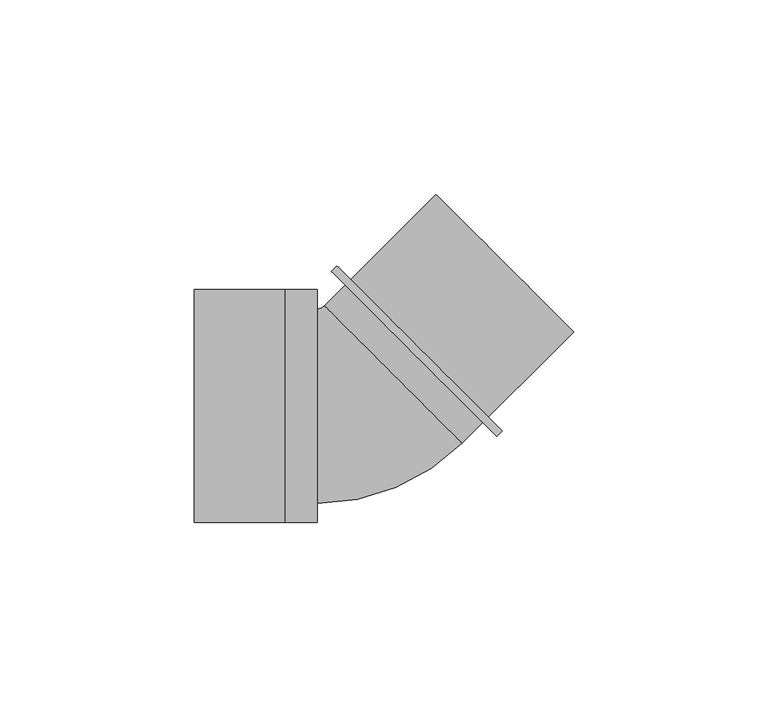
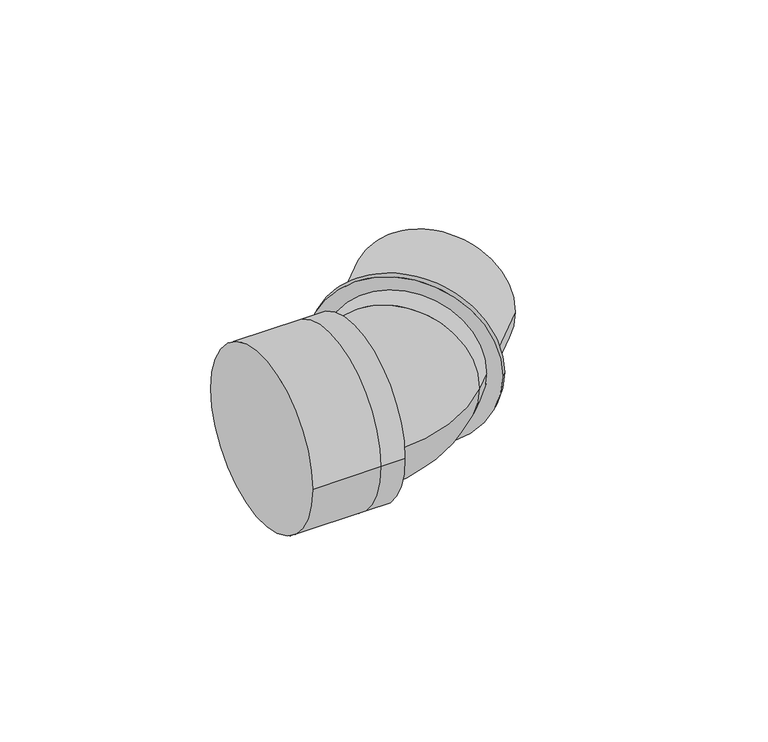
"""IFC4 building model written with IfcOpenShell, lengths in millimetres: pipe fitting geometry, 01051428 : Joelho a 45º F/M/F."""

from ifc_helpers import new_model, si_unit, point, frame, origin, origin_2d, place, context, project, spatial, circle_curve, ellipse_curve, trimmed, segment, composite_curve, outline, extrude, source, transform, mapped, element, save
from ifc_brep_helpers import plane_surface, cylinder_surface, revolved_surface, advanced_brep


def pipe_fitting_1c7e229d(model_context):
    return source(origin(), model_context, "Body", "SolidModel", [
        advanced_brep(
        [(54.4472222, 19.0918831, 0.0), (19.0918831, 54.4472222, 0.0), (-9.5459415, 25.8093975, 0.0), (25.8093975, -9.5459415, 0.0), (-11.5, -25.0, 0.0), (-11.5, 25.0, 0.0)],
        [
            (0, 1, circle_curve(frame((36.7695526, 36.7695526, 0.0), z_axis=(0.7071067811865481, 0.707106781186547, 0.0), x_axis=(-0.707106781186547, 0.7071067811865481, 0.0)), 25.0)),
            (1, 0, circle_curve(frame((36.7695526, 36.7695526, 0.0), z_axis=(0.7071067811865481, 0.707106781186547, 0.0), x_axis=(-0.707106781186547, 0.7071067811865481, 0.0)), 25.0)),
            (2, 3, circle_curve(frame((8.131728, 8.131728, 0.0), z_axis=(0.7071067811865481, 0.707106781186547, 0.0), x_axis=(-0.707106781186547, 0.7071067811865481, 0.0)), 25.0)),
            (3, 0),
            (1, 2),
            (3, 2, circle_curve(frame((8.131728, 8.131728, 0.0), z_axis=(0.7071067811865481, 0.707106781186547, 0.0), x_axis=(-0.707106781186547, 0.7071067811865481, 0.0)), 25.0)),
            (4, 5, circle_curve(frame((-11.5, 0.0, 0.0), z_axis=(-1.0, 0.0, 0.0), x_axis=(0.0, 1.0, 0.0)), 25.0)),
            (5, 4, circle_curve(frame((-11.5, 0.0, 0.0), z_axis=(-1.0, 0.0, 0.0), x_axis=(0.0, 1.0, 0.0)), 25.0)),
            (2, 5, circle_curve(frame((-11.5, 27.763456, 0.0), z_axis=(0.0, 0.0, -1.0), x_axis=(0.0, -1.0, 0.0)), 2.763456)),
            (4, 3, circle_curve(frame((-11.5, 27.763456, 0.0), z_axis=(0.0, 0.0, 1.0), x_axis=(0.0, -1.0, 0.0)), 52.763456)),
        ],
        [
            plane_surface(frame((36.7695526, 36.7695526, 0.0), z_axis=(0.7071067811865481, 0.707106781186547, 0.0), x_axis=(0.0, 0.0, 1.0))),
            cylinder_surface(frame((8.131728, 8.131728, 0.0), z_axis=(-0.7071067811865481, -0.707106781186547, 0.0), x_axis=(-0.707106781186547, 0.7071067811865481, 0.0)), 25.0),
            plane_surface(frame((-11.5, 0.0, 0.0), z_axis=(-1.0, 0.0, 0.0), x_axis=(0.0, 0.0, 1.0))),
            revolved_surface(trimmed(ellipse_curve(frame((-11.5, 0.0, 0.0), z_axis=(-1.0, 0.0, 0.0), x_axis=(0.0, 1.0, 0.0)), 25.0, 25.0), [point((-11.5, -25.0, 0.0))], [point((-11.5, 25.0, 0.0))], True, "CARTESIAN"), (-11.5, 27.763456, 0.0), (0.0, 0.0, 1.0)),
            revolved_surface(trimmed(ellipse_curve(frame((-11.5, 0.0, 0.0), z_axis=(-1.0, 0.0, 0.0), x_axis=(0.0, 1.0, 0.0)), 25.0, 25.0), [point((-11.5, 25.0, 0.0))], [point((-11.5, -25.0, 0.0))], True, "CARTESIAN"), (-11.5, 27.763456, 0.0), (0.0, 0.0, 1.0)),
        ],
        [
            (0, [[1, 2]]),
            (1, [[3, 4, -2, 5]]),
            (1, [[6, -5, -1, -4]]),
            (2, [[7, 8]]),
            (3, [[9, -7, 10, -3]]),
            (4, [[-10, -8, -9, -6]]),
        ],
    ),
        extrude(outline(composite_curve([segment(trimmed(circle_curve(origin_2d(), 30.0), [point((0.0, -30.0))], [point((0.0, 30.0))], False, "CARTESIAN"), True, "CONTINUOUS"), segment(trimmed(circle_curve(origin_2d(), 30.0), [point((0.0, 30.0))], [point((0.0, -30.0))], False, "CARTESIAN"), True, "CONTINUOUS")], self_intersect=False)), frame((13.4350288, 13.4350288, 0.0), z_axis=(0.7071067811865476, 0.7071067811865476, 0.0), x_axis=(0.0, 0.0, 1.0)), (0.0, 0.0, 1.0), 2.0),
        advanced_brep(
        [(-43.0, -30.0, 0.0), (-43.0, 30.0, 0.0), (-11.5, -30.0, 0.0), (-11.5, 30.0, 0.0), (-19.7383226, -30.0, 0.0), (-19.7383226, 30.0, 0.0)],
        [
            (0, 1, circle_curve(frame((-43.0, 0.0, 0.0), z_axis=(-1.0, 0.0, 0.0), x_axis=(0.0, 1.0, 0.0)), 30.0)),
            (1, 0, circle_curve(frame((-43.0, 0.0, 0.0), z_axis=(-1.0, 0.0, 0.0), x_axis=(0.0, 1.0, 0.0)), 30.0)),
            (2, 3, circle_curve(frame((-11.5, 0.0, 0.0), z_axis=(1.0, 0.0, 0.0), x_axis=(0.0, 1.0, 0.0)), 30.0)),
            (3, 2, circle_curve(frame((-11.5, 0.0, 0.0), z_axis=(1.0, 0.0, 0.0), x_axis=(0.0, 1.0, 0.0)), 30.0)),
            (0, 4),
            (4, 5, circle_curve(frame((-19.7383226, 0.0, 0.0), z_axis=(-1.0, 0.0, 0.0), x_axis=(0.0, 1.0, 0.0)), 30.0)),
            (5, 1),
            (5, 4, circle_curve(frame((-19.7383226, 0.0, 0.0), z_axis=(-1.0, 0.0, 0.0), x_axis=(0.0, 1.0, 0.0)), 30.0)),
            (4, 2),
            (3, 5),
        ],
        [
            plane_surface(frame((-43.0, 0.0, 0.0), z_axis=(-1.0, 0.0, 0.0), x_axis=(0.0, 0.0, 1.0))),
            plane_surface(frame((-11.5, 0.0, 0.0), z_axis=(1.0, 0.0, 0.0), x_axis=(0.0, 0.0, 1.0))),
            cylinder_surface(frame((-43.0, 0.0, 0.0), z_axis=(-1.0, 0.0, 0.0), x_axis=(0.0, 1.0, 0.0)), 30.0),
            cylinder_surface(frame((-19.7383226, 0.0, 0.0), z_axis=(-1.0, 0.0, 0.0), x_axis=(0.0, 1.0, 0.0)), 30.0),
        ],
        [
            (0, [[1, 2]]),
            (1, [[3, 4]]),
            (2, [[-1, 5, 6, 7]]),
            (2, [[-2, -7, 8, -5]]),
            (3, [[-6, 9, -4, 10]]),
            (3, [[-8, -10, -3, -9]]),
        ],
    ),
    ])


if __name__ == "__main__":
    model = new_model("IFC4")
    model_context = context("Model", 3, world=origin())
    ifc_project = project(units=[si_unit("LENGTHUNIT", "METRE", prefix="MILLI")], contexts=[model_context])
    site = spatial("IfcSite", under=ifc_project)
    building = spatial("IfcBuilding", under=site)
    placement = place(None, origin())
    pipe_fitting_shape = pipe_fitting_1c7e229d(model_context)
    element("IfcPipeFitting", 1, ObjectType="01051428 : Joelho a 45º F/M/F", at=placement, inside=building, context=model_context, shape_type="MappedRepresentation", body=[
        mapped(pipe_fitting_shape, transform((0.0, 0.0, 0.0), x_axis=(1.0, 0.0, 0.0), y_axis=(0.0, 1.0, 0.0), z_axis=(0.0, 0.0, 1.0))),
    ])
    save(model, "model.ifc")
